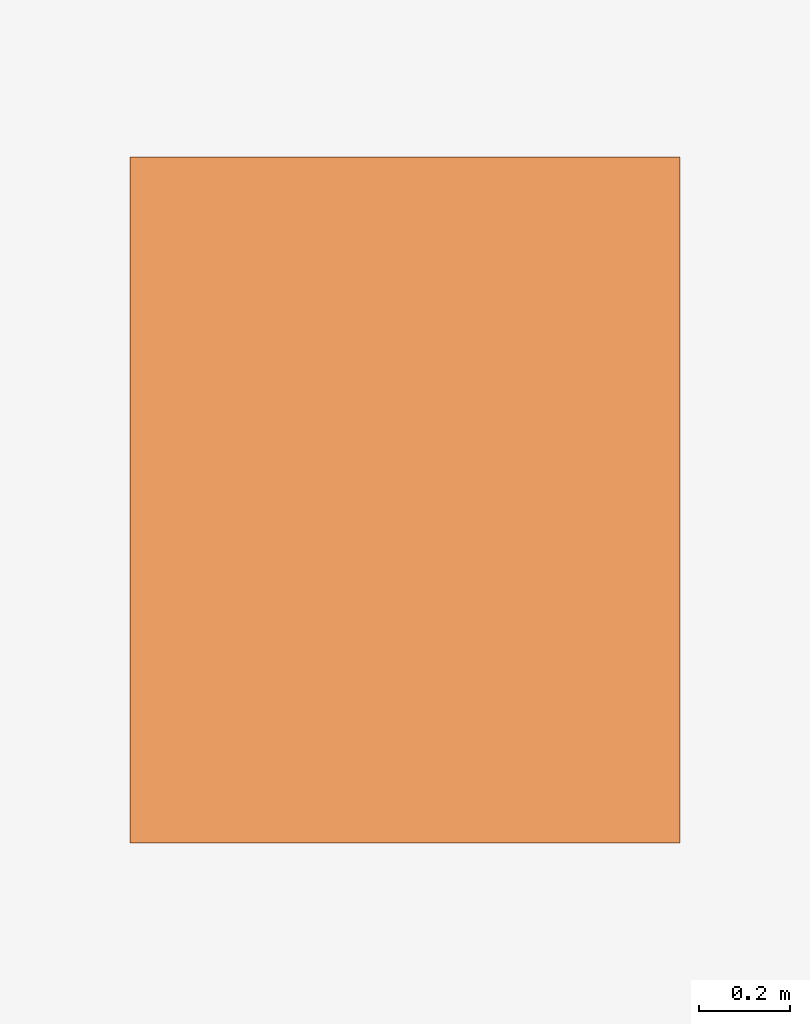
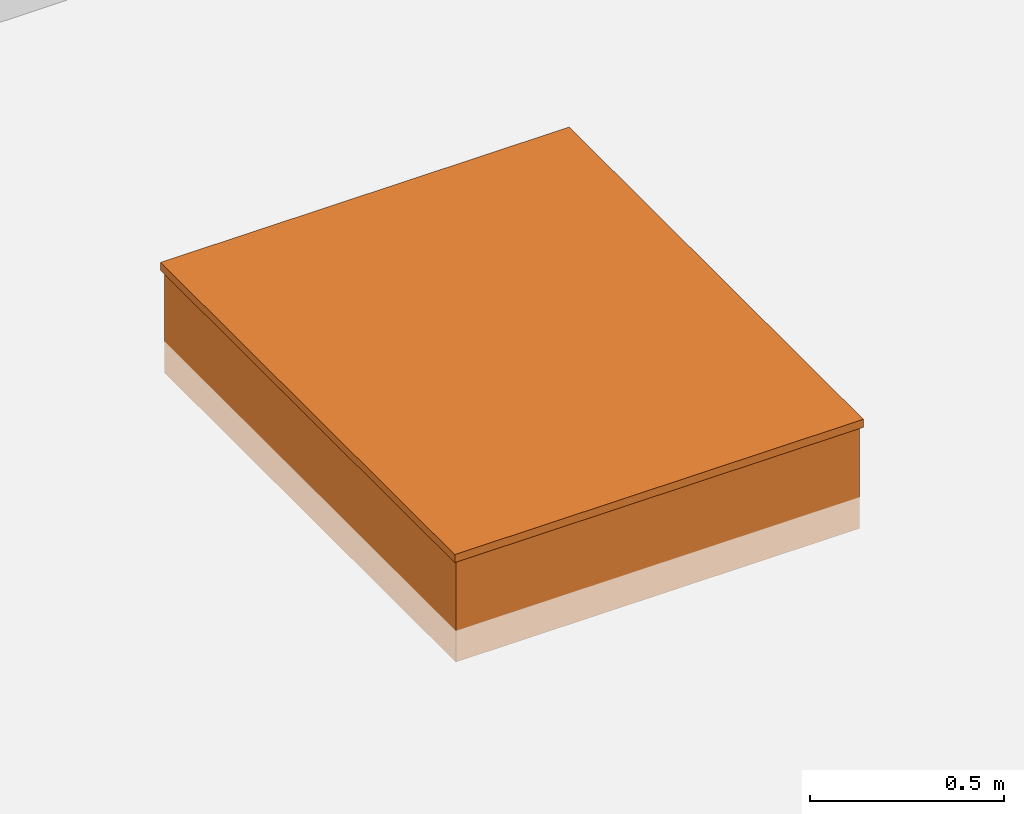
# One storey, part 4 of 4: 1 proxy.
"""IFC2X3 building model written with IfcOpenShell, lengths in metres."""

from ifc_helpers import new_model, entity, si_unit, converted_unit, derived_unit, direction, frame, origin, place, context, subcontext, project, spatial, faceted_brep, source, transform, mapped, material, material_list, type_object, type_shapes, element, save


model = new_model("IFC2X3")

# Units and contexts
model_context = context("Model", 3, precision=1e-05, world=origin(), true_north=direction((6.12303176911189e-17, 1.0)))
body_context = subcontext(model_context, "Body", "Model", "MODEL_VIEW")
ifc_project = project(units=[si_unit("LENGTHUNIT", "METRE"), si_unit("AREAUNIT", "SQUARE_METRE"), si_unit("VOLUMEUNIT", "CUBIC_METRE"), converted_unit("PLANEANGLEUNIT", "DEGREE", entity("IfcRatioMeasure", 0.0174532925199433), si_unit("PLANEANGLEUNIT", "RADIAN"), dimensions=[0, 0, 0, 0, 0, 0, 0]), si_unit("MASSUNIT", "GRAM", prefix="KILO"), derived_unit("MASSDENSITYUNIT", [(si_unit("MASSUNIT", "GRAM", prefix="KILO"), 1), (si_unit("LENGTHUNIT", "METRE"), -3)]), derived_unit("MOMENTOFINERTIAUNIT", [(si_unit("LENGTHUNIT", "METRE"), 4)]), si_unit("TIMEUNIT", "SECOND"), si_unit("FREQUENCYUNIT", "HERTZ"), si_unit("THERMODYNAMICTEMPERATUREUNIT", "DEGREE_CELSIUS"), derived_unit("THERMALTRANSMITTANCEUNIT", [(si_unit("MASSUNIT", "GRAM", prefix="KILO"), 1), (si_unit("THERMODYNAMICTEMPERATUREUNIT", "KELVIN"), -1), (si_unit("TIMEUNIT", "SECOND"), -3)]), derived_unit("VOLUMETRICFLOWRATEUNIT", [(si_unit("LENGTHUNIT", "METRE"), 3), (si_unit("TIMEUNIT", "SECOND"), -1)]), si_unit("ELECTRICCURRENTUNIT", "AMPERE"), si_unit("ELECTRICVOLTAGEUNIT", "VOLT"), si_unit("POWERUNIT", "WATT"), si_unit("FORCEUNIT", "NEWTON", prefix="KILO"), si_unit("ILLUMINANCEUNIT", "LUX"), si_unit("LUMINOUSFLUXUNIT", "LUMEN"), si_unit("LUMINOUSINTENSITYUNIT", "CANDELA"), derived_unit("USERDEFINED", [(si_unit("MASSUNIT", "GRAM", prefix="KILO"), -1), (si_unit("LENGTHUNIT", "METRE"), -2), (si_unit("TIMEUNIT", "SECOND"), 3), (si_unit("LUMINOUSFLUXUNIT", "LUMEN"), 1)]), derived_unit("LINEARVELOCITYUNIT", [(si_unit("LENGTHUNIT", "METRE"), 1), (si_unit("TIMEUNIT", "SECOND"), -1)]), si_unit("PRESSUREUNIT", "PASCAL"), derived_unit("USERDEFINED", [(si_unit("LENGTHUNIT", "METRE"), -2), (si_unit("MASSUNIT", "GRAM", prefix="KILO"), 1), (si_unit("TIMEUNIT", "SECOND"), -2)]), derived_unit("LINEARFORCEUNIT", [(si_unit("MASSUNIT", "GRAM", prefix="KILO"), 1), (si_unit("LENGTHUNIT", "METRE"), 1), (si_unit("TIMEUNIT", "SECOND"), -2), (si_unit("LENGTHUNIT", "METRE"), -1)]), derived_unit("PLANARFORCEUNIT", [(si_unit("MASSUNIT", "GRAM", prefix="KILO"), 1), (si_unit("LENGTHUNIT", "METRE"), 1), (si_unit("TIMEUNIT", "SECOND"), -2), (si_unit("LENGTHUNIT", "METRE"), -2)])], contexts=[model_context])

# Site, building, storey
site_placement = place(None, origin())
site = spatial("IfcSite", under=ifc_project, at=site_placement, Name="Default", CompositionType="ELEMENT")
building_placement = place(site_placement, origin())
building = spatial("IfcBuilding", under=site, at=building_placement, CompositionType="ELEMENT")
storey_placement = place(building_placement, frame((0.0, 0.0, 3.95330827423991)))
storey = spatial("IfcBuildingStorey", under=building, at=storey_placement, Name="Niveau 1 - 01", CompositionType="ELEMENT", Elevation=3.95330827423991)

# Proxy
ifc_material_1 = material(Name="Métal - Aluminium")
ifc_material_2 = material(Name="Verre")
ifc_material_list = material_list([ifc_material_1, ifc_material_2])
building_element_proxy_type = type_object("IfcBuildingElementProxyType", Name="Famille 0:Famille 140x110", PredefinedType="NOTDEFINED", material=ifc_material_1)
shared_shape = source(origin(), body_context, "Body", "Brep", [
    faceted_brep([(1.215, 0.0, 0.32), (1.2075, 0.00750000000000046, 0.32), (1.2075, 1.5075, 0.32), (1.215, 1.515, 0.32), (1.1825, 0.0324999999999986, 0.345154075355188), (1.215, 0.0, 0.345154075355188), (1.215, 1.515, 0.345154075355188), (1.1825, 1.4825, 0.345154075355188), (1.1825, 0.0324999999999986, 0.325991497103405), (1.1825, 1.4825, 0.325991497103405), (1.15750000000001, 0.0574999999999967, 0.325991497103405), (1.15750000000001, 1.4575, 0.325991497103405), (1.15750000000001, 0.0574999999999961, 0.0), (1.15750000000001, 1.4575, 0.0), (1.2075, 0.00750000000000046, 0.0), (1.2075, 1.5075, 0.0), (0.00750000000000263, 1.5075, 0.32), (0.0, 1.515, 0.32), (0.0, 1.515, 0.345154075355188), (0.0325000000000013, 1.4825, 0.345154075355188), (0.0325000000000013, 1.4825, 0.325991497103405), (0.0574999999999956, 1.4575, 0.325991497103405), (0.0574999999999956, 1.4575, 0.0), (0.00750000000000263, 1.5075, 0.0), (0.0074999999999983, 0.00750000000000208, 0.32), (0.0, 0.0, 0.32), (0.0, 0.0, 0.345154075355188), (0.0324999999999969, 0.0325000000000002, 0.345154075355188), (0.0324999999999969, 0.0325000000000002, 0.325991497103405), (0.0574999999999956, 0.0574999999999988, 0.325991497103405), (0.0574999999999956, 0.0574999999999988, 0.0), (0.0074999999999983, 0.00750000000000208, 0.0)], [[[0, 1, 2, 3]], [[4, 5, 6, 7]], [[8, 4, 7, 9]], [[10, 8, 9, 11]], [[12, 10, 11, 13]], [[14, 12, 13, 15]], [[3, 2, 16, 17]], [[7, 6, 18, 19]], [[9, 7, 19, 20]], [[11, 9, 20, 21]], [[13, 11, 21, 22]], [[15, 13, 22, 23]], [[17, 16, 24, 25]], [[19, 18, 26, 27]], [[20, 19, 27, 28]], [[21, 20, 28, 29]], [[22, 21, 29, 30]], [[23, 22, 30, 31]], [[25, 24, 1, 0]], [[27, 26, 5, 4]], [[28, 27, 4, 8]], [[29, 28, 8, 10]], [[30, 29, 10, 12]], [[31, 30, 12, 14]], [[1, 14, 15, 2]], [[5, 0, 3, 6]], [[2, 15, 23, 16]], [[6, 3, 17, 18]], [[16, 23, 31, 24]], [[18, 17, 25, 26]], [[24, 31, 14, 1]], [[26, 25, 0, 5]]]),
    faceted_brep([(1.1825, 1.4825, 0.325991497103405), (1.1825, 0.032499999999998, 0.325991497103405), (0.0324999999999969, 0.0325000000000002, 0.325991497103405), (0.0325000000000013, 1.4825, 0.325991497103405), (1.1825, 1.4825, 0.345154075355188), (0.0325000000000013, 1.4825, 0.345154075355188), (0.0324999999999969, 0.0325000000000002, 0.345154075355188), (1.1825, 0.032499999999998, 0.345154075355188)], [[[0, 1, 2, 3]], [[4, 5, 6, 7]], [[5, 4, 0, 3]], [[6, 5, 3, 2]], [[7, 6, 2, 1]], [[4, 7, 1, 0]]]),
])
type_shapes(building_element_proxy_type, [shared_shape])
proxy_placement = place(storey_placement, frame((-33.8765462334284, 4.66421116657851, 0.0)))
element("IfcBuildingElementProxy", 1, at=proxy_placement, inside=storey, type_object=building_element_proxy_type, material=ifc_material_list, Name="Famille 0:Famille 140x110", ObjectType="Famille 0:Famille 140x110", context=body_context, shape_type="MappedRepresentation", body=[
    mapped(shared_shape, transform((0.0, 0.0, 0.0), scale=1.0)),
])

save(model, "model.ifc")
